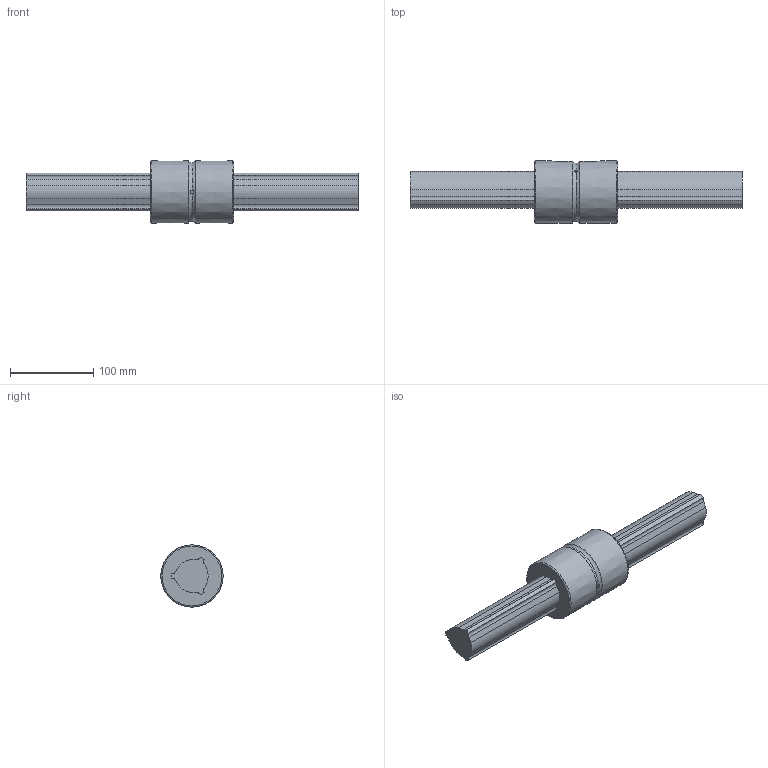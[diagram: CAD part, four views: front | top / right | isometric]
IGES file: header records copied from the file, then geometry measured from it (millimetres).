
Start section: Data from Parasolid IGES Translator 26.0.171, Copyright(c) 2006 Siemens PLM Software. All Rights Reserved.
Global section: file name: LBS50+400L(1001500).igs; native system: By Siemens PLM Incorporated; preprocessor: XPlus GENERIC/IGES 26.0.171; author: Noname; organization: Noname; date: 20240523.115836; units: millimetre
Bounding box: 400 x 75 x 75 mm (x, y, z)
Surface area: 105098.9 mm2 (no closed solid volume)
Topology: 0 solids, 0 shells, 61 faces, 332 edges, 325 vertices
Faces by surface type: revolution 39, extrusion 22
